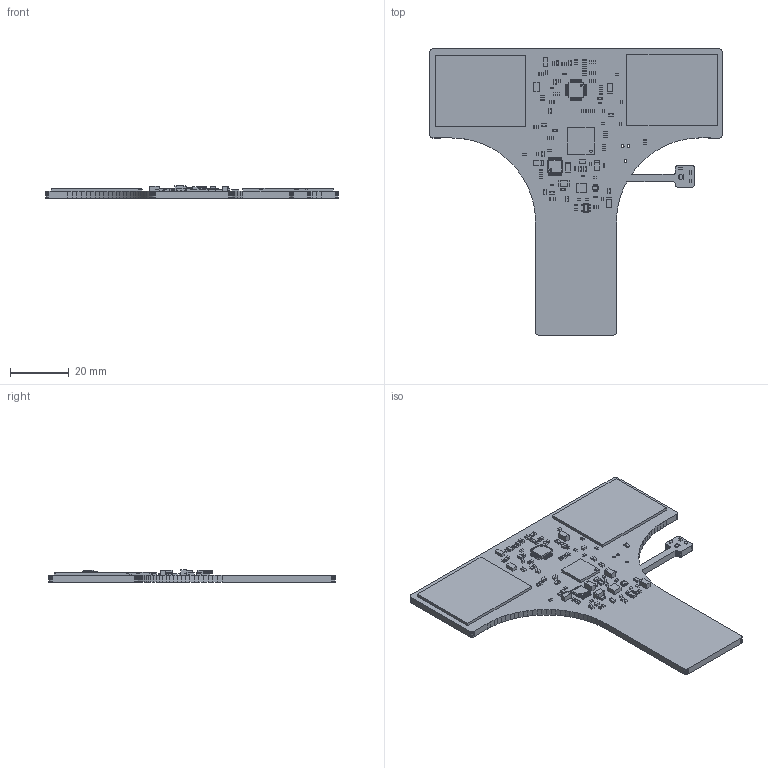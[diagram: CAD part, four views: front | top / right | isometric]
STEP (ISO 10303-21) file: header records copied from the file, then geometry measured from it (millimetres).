
FILE_DESCRIPTION(('Open CASCADE Model'),'2;1');
FILE_NAME('Open CASCADE Shape Model','2014-10-16T14:50:40',('Author'),( 'Open CASCADE'),'Open CASCADE STEP processor 6.5','Open CASCADE 6.5' ,'Unknown');
FILE_SCHEMA(('AUTOMOTIVE_DESIGN { 1 0 10303 214 1 1 1 1 }'));
Length unit declared in the file: millimetre
Products named in the file (182): PCB; Board; BT2; 1757545696; Extruded; BT1; R4; 1392495248; 1392495120; C1; 1392496784; 1392497040; C2; C3; 1392495760; 1392495632; C4; C5; C6; C7; C8; C9; 1392497936; 1392498064; C10; C11; C12; C14; C15; C19; C21; C22; C27; C28; C29; C30; C31; C33; C34; C36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
Assembly tree (500 placements, depth 5):
  PCB
    Board
    BT2
      1757545696
        Extruded
    BT1
      1757545696
        Extruded
    R4
      1392495248  x2
        Extruded
      1392495120
        Extruded
    C1
      1392496784
        Extruded
      1392497040
        Extruded
    C2
      1392496784
        Extruded
      1392497040
        Extruded
    C3
      1392495760  x2
        Extruded
      1392495632
        Extruded
    C4
      1392495248  x2
        Extruded
      1392495120
        Extruded
    C5
      1392495760  x2
        Extruded
      1392495632
        Extruded
    C6
      1392495760  x2
        Extruded
      1392495632
        Extruded
    C7
      1392495760  x2
        Extruded
      1392495632
        Extruded
    C8
      1392495248  x2
        Extruded
      1392495120
        Extruded
    C9
      1392497936
        Extruded
      1392498064
        Extruded
    C10
      1392495760  x2
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Bounding box: 99.84 x 97.82 x 4.21 mm (x, y, z)
Volume: 14124.7 mm3; surface area: 16210.3 mm2
Topology: 359 solids, 359 shells, 2650 faces, 5732 edges, 3805 vertices
Faces by surface type: plane 2480, cylinder 152, sphere 18
Full cylindrical faces by diameter (mm): 0.217 x1, 0.991 x3
Entity records: 47451 total; most frequent: CARTESIAN_POINT 11929, DIRECTION 6290, LINE 3787, VECTOR 3787, ORIENTED_EDGE 2992, PCURVE 2992, DEFINITIONAL_REPRESENTATION 2992, EDGE_CURVE 1496
